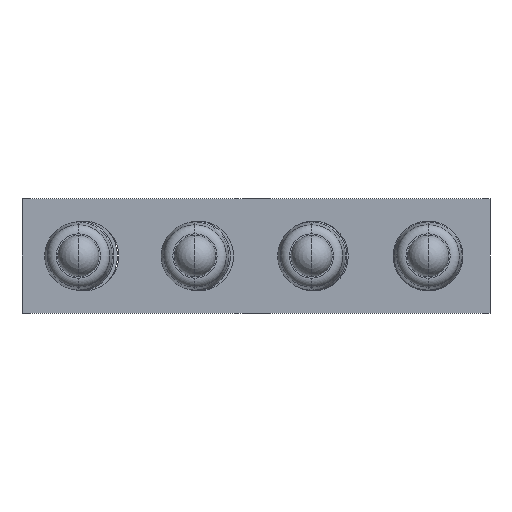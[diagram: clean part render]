
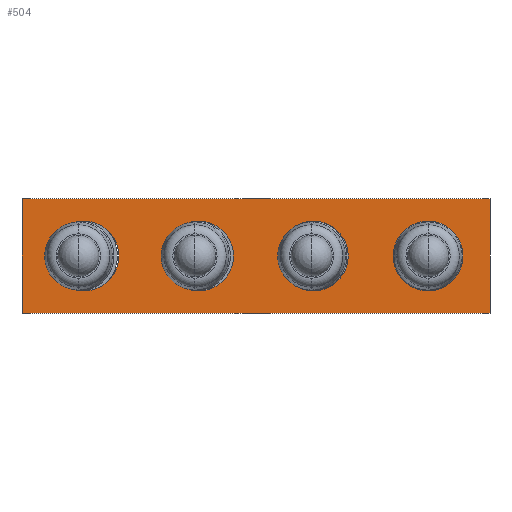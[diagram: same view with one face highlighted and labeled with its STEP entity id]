
A CAD part, left-side view. The second image highlights one B-rep face of the part: STEP entity #504.
In plain terms, the highlighted planar face has unit normal (-1, 0, 0).
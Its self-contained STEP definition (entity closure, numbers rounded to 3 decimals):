
#1=CARTESIAN_POINT('',(0.,1.25,0.));
#2=DIRECTION('',(-1.,0.,0.));
#3=DIRECTION('',(0.,-1.,0.));
#4=AXIS2_PLACEMENT_3D('',#1,#2,#3);
#6=CARTESIAN_POINT('',(0.,1.25,0.));
#7=DIRECTION('',(-1.,0.,0.));
#8=DIRECTION('',(0.,1.,0.));
#9=AXIS2_PLACEMENT_3D('',#6,#7,#8);
#11=CARTESIAN_POINT('',(0.,3.75,0.));
#12=DIRECTION('',(-1.,0.,0.));
#13=DIRECTION('',(0.,-1.,0.));
#14=AXIS2_PLACEMENT_3D('',#11,#12,#13);
#16=CARTESIAN_POINT('',(0.,3.75,0.));
#17=DIRECTION('',(-1.,0.,0.));
#18=DIRECTION('',(0.,1.,0.));
#19=AXIS2_PLACEMENT_3D('',#16,#17,#18);
#21=CARTESIAN_POINT('',(0.,-1.25,0.));
#22=DIRECTION('',(-1.,0.,0.));
#23=DIRECTION('',(0.,-1.,0.));
#24=AXIS2_PLACEMENT_3D('',#21,#22,#23);
#26=CARTESIAN_POINT('',(0.,-1.25,0.));
#27=DIRECTION('',(-1.,0.,0.));
#28=DIRECTION('',(0.,1.,0.));
#29=AXIS2_PLACEMENT_3D('',#26,#27,#28);
#31=CARTESIAN_POINT('',(0.,-3.75,0.));
#32=DIRECTION('',(-1.,0.,0.));
#33=DIRECTION('',(0.,-1.,0.));
#34=AXIS2_PLACEMENT_3D('',#31,#32,#33);
#36=CARTESIAN_POINT('',(0.,-3.75,0.));
#37=DIRECTION('',(-1.,0.,0.));
#38=DIRECTION('',(0.,1.,0.));
#39=AXIS2_PLACEMENT_3D('',#36,#37,#38);
#41=DIRECTION('',(0.,0.,1.));
#42=VECTOR('',#41,2.5);
#43=CARTESIAN_POINT('',(0.,5.1,-1.25));
#44=LINE('',#43,#42);
#45=DIRECTION('',(0.,-1.,0.));
#46=VECTOR('',#45,10.2);
#47=CARTESIAN_POINT('',(0.,5.1,1.25));
#48=LINE('',#47,#46);
#49=DIRECTION('',(0.,0.,-1.));
#50=VECTOR('',#49,2.5);
#51=CARTESIAN_POINT('',(0.,-5.1,1.25));
#52=LINE('',#51,#50);
#53=DIRECTION('',(0.,1.,0.));
#54=VECTOR('',#53,10.2);
#55=CARTESIAN_POINT('',(0.,-5.1,-1.25));
#56=LINE('',#55,#54);
#353=CARTESIAN_POINT('',(0.,0.49,0.));
#354=CARTESIAN_POINT('',(0.,2.01,0.));
#355=VERTEX_POINT('',#353);
#356=VERTEX_POINT('',#354);
#357=CARTESIAN_POINT('',(0.,2.99,0.));
#358=CARTESIAN_POINT('',(0.,4.51,0.));
#359=VERTEX_POINT('',#357);
#360=VERTEX_POINT('',#358);
#361=CARTESIAN_POINT('',(0.,-2.01,0.));
#362=CARTESIAN_POINT('',(0.,-0.49,0.));
#363=VERTEX_POINT('',#361);
#364=VERTEX_POINT('',#362);
#365=CARTESIAN_POINT('',(0.,-4.51,0.));
#366=CARTESIAN_POINT('',(0.,-2.99,0.));
#367=VERTEX_POINT('',#365);
#368=VERTEX_POINT('',#366);
#369=CARTESIAN_POINT('',(0.,5.1,-1.25));
#370=CARTESIAN_POINT('',(0.,5.1,1.25));
#371=VERTEX_POINT('',#369);
#372=VERTEX_POINT('',#370);
#373=CARTESIAN_POINT('',(0.,-5.1,1.25));
#374=VERTEX_POINT('',#373);
#375=CARTESIAN_POINT('',(0.,-5.1,-1.25));
#376=VERTEX_POINT('',#375);
#465=CARTESIAN_POINT('',(0.,0.,0.));
#466=DIRECTION('',(1.,0.,0.));
#467=DIRECTION('',(0.,-1.,0.));
#468=AXIS2_PLACEMENT_3D('',#465,#466,#467);
#469=PLANE('',#468);
#471=ORIENTED_EDGE('',*,*,#470,.T.);
#473=ORIENTED_EDGE('',*,*,#472,.T.);
#475=ORIENTED_EDGE('',*,*,#474,.T.);
#477=ORIENTED_EDGE('',*,*,#476,.T.);
#478=EDGE_LOOP('',(#471,#473,#475,#477));
#479=FACE_OUTER_BOUND('',#478,.F.);
#481=ORIENTED_EDGE('',*,*,#480,.T.);
#483=ORIENTED_EDGE('',*,*,#482,.T.);
#484=EDGE_LOOP('',(#481,#483));
#485=FACE_BOUND('',#484,.F.);
#487=ORIENTED_EDGE('',*,*,#486,.T.);
#489=ORIENTED_EDGE('',*,*,#488,.T.);
#490=EDGE_LOOP('',(#487,#489));
#491=FACE_BOUND('',#490,.F.);
#493=ORIENTED_EDGE('',*,*,#492,.T.);
#495=ORIENTED_EDGE('',*,*,#494,.T.);
#496=EDGE_LOOP('',(#493,#495));
#497=FACE_BOUND('',#496,.F.);
#499=ORIENTED_EDGE('',*,*,#498,.T.);
#501=ORIENTED_EDGE('',*,*,#500,.T.);
#502=EDGE_LOOP('',(#499,#501));
#503=FACE_BOUND('',#502,.F.);
#504=ADVANCED_FACE('',(#479,#485,#491,#497,#503),#469,.F.);
#5=CIRCLE('',#4,0.76);
#10=CIRCLE('',#9,0.76);
#15=CIRCLE('',#14,0.76);
#20=CIRCLE('',#19,0.76);
#25=CIRCLE('',#24,0.76);
#30=CIRCLE('',#29,0.76);
#35=CIRCLE('',#34,0.76);
#40=CIRCLE('',#39,0.76);
#470=EDGE_CURVE('',#371,#372,#44,.T.);
#472=EDGE_CURVE('',#372,#374,#48,.T.);
#474=EDGE_CURVE('',#374,#376,#52,.T.);
#476=EDGE_CURVE('',#376,#371,#56,.T.);
#480=EDGE_CURVE('',#359,#360,#15,.T.);
#482=EDGE_CURVE('',#360,#359,#20,.T.);
#486=EDGE_CURVE('',#363,#364,#25,.T.);
#488=EDGE_CURVE('',#364,#363,#30,.T.);
#492=EDGE_CURVE('',#367,#368,#35,.T.);
#494=EDGE_CURVE('',#368,#367,#40,.T.);
#498=EDGE_CURVE('',#355,#356,#5,.T.);
#500=EDGE_CURVE('',#356,#355,#10,.T.);
